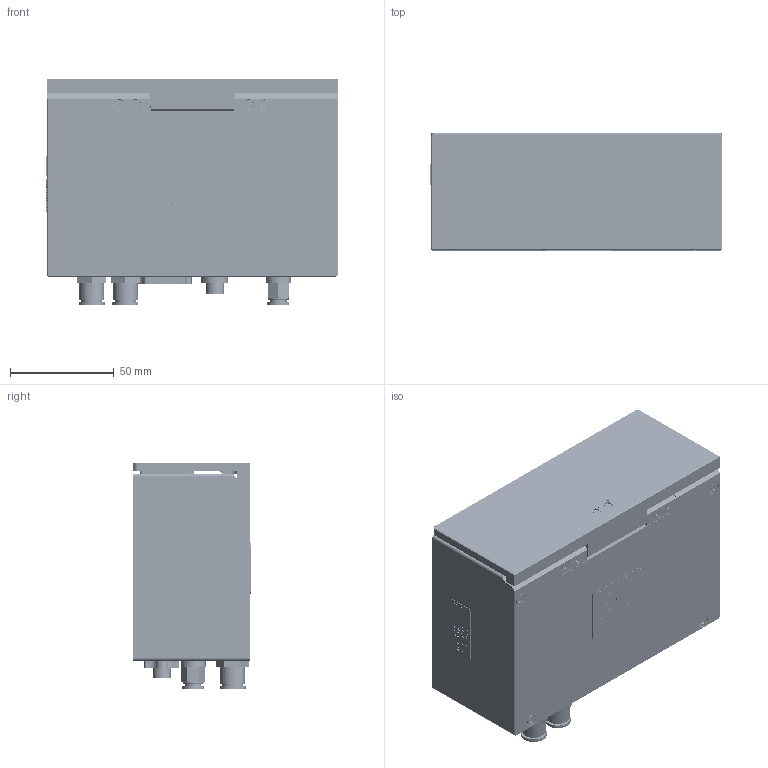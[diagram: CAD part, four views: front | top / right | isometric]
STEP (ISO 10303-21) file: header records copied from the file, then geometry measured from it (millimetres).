
FILE_DESCRIPTION((''),'2;1');
FILE_NAME('PPN-1200-GB_ASM','2024-11-19T',('qqwan'),(''),'PRO/ENGINEER BY PARAMETRIC TECHNOLOGY CORPORATION, 2010280','PRO/ENGINEER BY PARAMETRIC TECHNOLOGY CORPORATION, 2010280','');
FILE_SCHEMA(('CONFIG_CONTROL_DESIGN'));
Products named in the file (65): PPN0700-001_1; PPN0700-002_1; PPN0700-006_1; PPN0700-007_1; PRT0004_1; M3X8_1; MANIFOLD_SOLID_BREP_1941084; MANIFOLD_SOLID_BREP_1941234; BOLI_1_ASM; M2_5X20_1; MANIFOLD_SOLID_BREP_203790_1_1; MANIFOLD_SOLID_BREP_203791_1_1; MANIFOLD_SOLID_BREP_203792_1_1; MANIFOLD_SOLID_BREP_203793_1_1; MANIFOLD_SOLID_BREP_203794_1_1; MANIFOLD_SOLID_BREP_203795_1_1; MANIFOLD_SOLID_BREP_203796_1_1; MANIFOLD_SOLID_BREP_203797_1_1; MANIFOLD_SOLID_BREP_203798_1_1; MANIFOLD_SOLID_BREP_203799_1_1; MANIFOLD_SOLID_BREP_203800_1_1; MANIFOLD_SOLID_BREP_203801_1_1; MANIFOLD_SOLID_BREP_203802_1_1; MANIFOLD_SOLID_BREP_203803_1_1; MANIFOLD_SOLID_BREP_203804_1_1; MANIFOLD_SOLID_BREP_203805_1_1; MANIFOLD_SOLID_BREP_203806_1_1; MANIFOLD_SOLID_BREP_203807_1_1; MANIFOLD_SOLID_BREP_203808_1_1; MANIFOLD_SOLID_BREP_203809_1_1; 6_X2_82AF5E7F6FD1822A7A7A63D25E_ASM; HRS-6_ASM_1_ASM; M2__1; PC4__1; PRT0003_1; ZYJG-BQ_1; WSCG-LOGO_1; BQZ_1; MANIFOLD_SOLID_BREP_2100168; MANIFOLD_SOLID_BREP_2100256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
Assembly tree (92 placements, depth 7):
  PPN-1200-GB_ASM
    ASM0001_ASM_3_ASM
      PPN0700-001_1
      PPN0700-002_1
      PPN0700-006_1
      PPN0700-007_1  x2
      PRT0004_1
      M3X8_1  x14
      BOLI_1_ASM
        MANIFOLD_SOLID_BREP_1941084
        MANIFOLD_SOLID_BREP_1941234
      M2_5X20_1  x6
      HRS-6_ASM_1_ASM
        6_X2_82AF5E7F6FD1822A7A7A63D25E_ASM
          MANIFOLD_SOLID_BREP_203790_1_1
          MANIFOLD_SOLID_BREP_203791_1_1
          MANIFOLD_SOLID_BREP_203792_1_1
          MANIFOLD_SOLID_BREP_203793_1_1
          MANIFOLD_SOLID_BREP_203794_1_1
          MANIFOLD_SOLID_BREP_203795_1_1
          MANIFOLD_SOLID_BREP_203796_1_1
          MANIFOLD_SOLID_BREP_203797_1_1
          MANIFOLD_SOLID_BREP_203798_1_1
          MANIFOLD_SOLID_BREP_203799_1_1
          MANIFOLD_SOLID_BREP_203800_1_1
          MANIFOLD_SOLID_BREP_203801_1_1
          MANIFOLD_SOLID_BREP_203802_1_1
          MANIFOLD_SOLID_BREP_203803_1_1
          MANIFOLD_SOLID_BREP_203804_1_1
          MANIFOLD_SOLID_BREP_203805_1_1
          MANIFOLD_SOLID_BREP_203806_1_1
          MANIFOLD_SOLID_BREP_203807_1_1
          MANIFOLD_SOLID_BREP_203808_1_1
          MANIFOLD_SOLID_BREP_203809_1_1
      M2__1  x4
      PC4__1
      PRT0003_1
      ZYJG-BQ_1
      WSCG-LOGO_1
      BQZ_1
      PRT0002_1_ASM
        MANIFOLD_SOLID_BREP_2100168
        MANIFOLD_SOLID_BREP_2100256
        MANIFOLD_SOLID_BREP_2100344
      PRT0029_1
      PPN0700-002-YITI_1
      PPN0700__ASM_1_ASM
        PPN0700__________-6388_ASM_1_ASM
          PPN0700_________ASM_1_ASM
            PPN0700__________-23737_1
            PPN0700__________-5902_1
            PPN0700QIGANG_ASM_1_ASM
              PPN0700_CUJ6_NTJ-006A_1_1
              PPN0700_CUJB6-10DM_0__ROD_1_1
              PPN0700_CUJB6-10D_0__BODY_2_1
            PPN0700__________-6217_1
          PPN0700__________0427_1
          PPN0700_____1
          PPN0700__________-_____1123_ASM_ASM
            ____3_1
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Bounding box: 140.3 x 56.36 x 109.12 mm (x, y, z)
Surface area: 268402.7 mm2 (no closed solid volume)
Topology: 0 solids, 137 shells, 9601 faces, 26482 edges, 17535 vertices
Faces by surface type: plane 6981, cylinder 1336, extrusion 832, cone 356, torus 70, bspline 26
Entity records: 295735 total; most frequent: CARTESIAN_POINT 63478, ORIENTED_EDGE 49791, DIRECTION 43681, EDGE_CURVE 25008, VECTOR 21055, LINE 20223, VERTEX_POINT 16633, AXIS2_PLACEMENT_3D 11313
